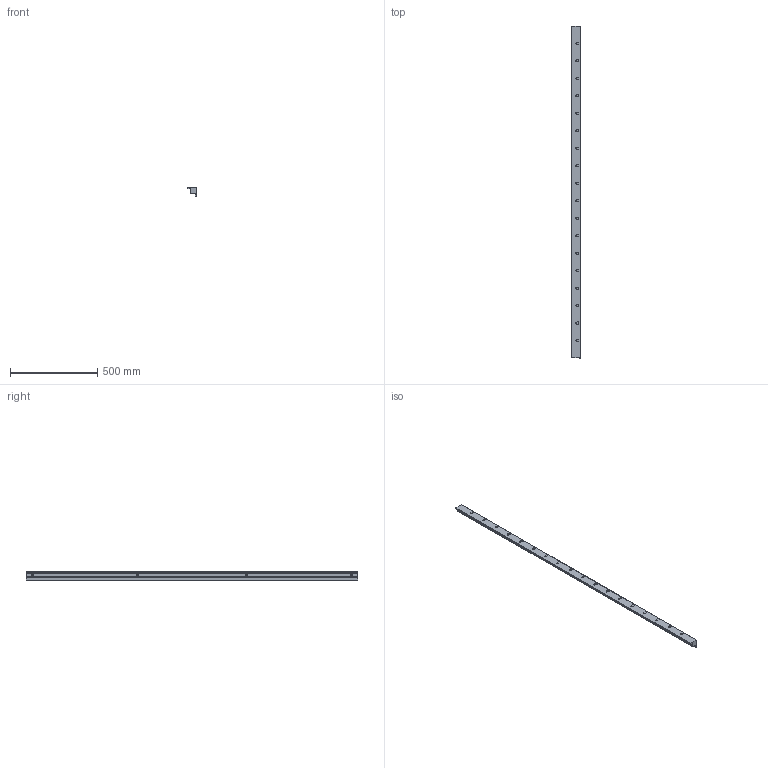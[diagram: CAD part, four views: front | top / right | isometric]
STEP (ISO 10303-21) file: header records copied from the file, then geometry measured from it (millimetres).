
FILE_DESCRIPTION(('CAx-IF Rec.Pracs.---Model Styling and Organization---1.2---2011-12-15','CAx-IF Rec.Pracs.---Geometric and Assembly Validation Properties---4.1---2014-06-16','CAx-IF Rec.Pracs.---PMI Polyline Presentation---2.0---2013-05-24'),'2;1');
FILE_NAME('R5GMN20.stp','2021-05-06T05:50:03+03:00',(''),(''),'STEP Interface 4.4 by CT CoreTechnologie','3D_Evolution4.4 by CT CoreTechnologie','');
FILE_SCHEMA(('AUTOMOTIVE_DESIGN { 1 0 10303 214 1 1 1 1 }'));
Length unit declared in the file: millimetre
Products named in the file (1): R5KMN20
Bounding box: 50 x 1900 x 50 mm (x, y, z)
Surface area: 378997.6 mm2 (no closed solid volume)
Topology: 0 solids, 1 shells, 1131 faces, 2582 edges, 1722 vertices
Faces by surface type: plane 701, cylinder 288, bspline 142
Entity records: 33158 total; most frequent: CARTESIAN_POINT 7002, DIRECTION 5428, ORIENTED_EDGE 5168, EDGE_CURVE 2584, AXIS2_PLACEMENT_3D 1854, VERTEX_POINT 1724, VECTOR 1720, LINE 1720
